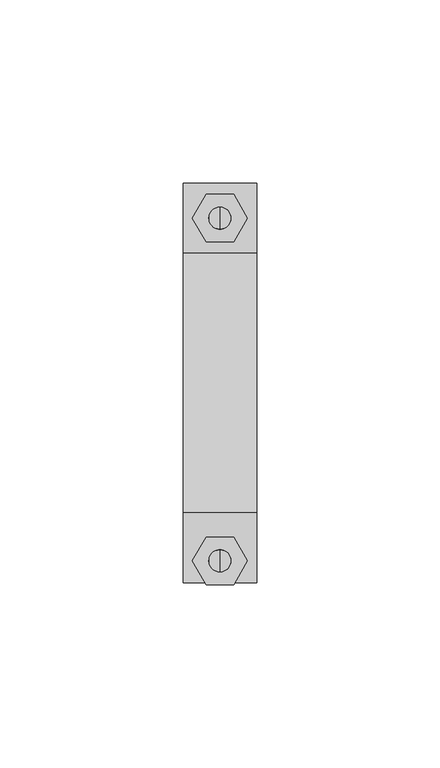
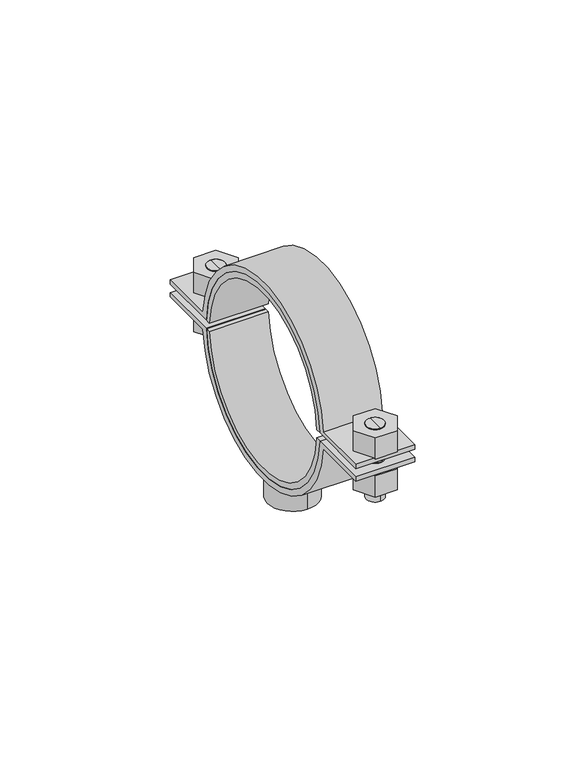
"""IFC4 building model written with IfcOpenShell, lengths in millimetres: valve geometry, Superfix DG2 Clamp Extra (based on pipe) : Superfix DG2 Clamp Extra (based on pipe)."""

from ifc_helpers import new_model, si_unit, point, frame, frame_2d, origin, origin_2d, place, context, project, spatial, polyline, circle_curve, trimmed, segment, composite_curve, outline, extrude, source, transform, mapped, element, save
from ifc_brep_helpers import plane_surface, cylinder_surface, advanced_brep


def valve_0b170f44(model_context):
    return source(origin(), model_context, "Body", "SolidModel", [
        advanced_brep(
        [(0.0, 48.0, 342.9002332), (0.0, 42.0, 342.9002332), (0.0, 42.0, 357.0002332), (0.0, 48.0, 357.0002332), (0.0, 45.0, 342.9002332)],
        [
            (0, 1, circle_curve(frame((0.0, 45.0, 342.9002332), z_axis=(0.0, 0.0, 1.0), x_axis=(0.0, 1.0, 0.0)), 3.0)),
            (1, 2),
            (2, 3, circle_curve(frame((0.0, 45.0, 357.0002332), z_axis=(0.0, 0.0, -1.0), x_axis=(0.0, 1.0, 0.0)), 3.0)),
            (3, 0),
            (1, 0, circle_curve(frame((0.0, 45.0, 342.9002332), z_axis=(0.0, 0.0, 1.0), x_axis=(0.0, 1.0, 0.0)), 3.0)),
            (3, 2, circle_curve(frame((0.0, 45.0, 357.0002332), z_axis=(0.0, 0.0, -1.0), x_axis=(0.0, 1.0, 0.0)), 3.0)),
            (0, 4),
            (4, 1),
        ],
        [
            cylinder_surface(frame((0.0, 45.0, 356.7808426), z_axis=(0.0, 0.0, 1.0), x_axis=(0.0, 1.0, 0.0)), 3.0),
            plane_surface(frame((0.0, 45.0, 342.9002332), z_axis=(0.0, 0.0, -1.0), x_axis=(0.0, 1.0, 0.0))),
            plane_surface(frame((13.75, -54.5, 357.0002332), z_axis=(0.0, 0.0, 1.0), x_axis=(-1.0, 0.0, 0.0))),
        ],
        [
            (0, [[1, 2, 3, 4]]),
            (0, [[5, -4, 6, -2]]),
            (1, [[-1, 7, 8]]),
            (1, [[-5, -8, -7]]),
            (2, [[-3, -6]]),
        ],
    ),
        advanced_brep(
        [(0.0, 42.0, 369.1002332), (0.0, 48.0, 369.1002332), (0.0, 48.0, 360.0002332), (0.0, 42.0, 360.0002332), (0.0, 45.0, 369.1002332)],
        [
            (0, 1, circle_curve(frame((0.0, 45.0, 369.1002332), z_axis=(0.0, 0.0, -1.0), x_axis=(0.0, 1.0, 0.0)), 3.0)),
            (1, 2),
            (2, 3, circle_curve(frame((0.0, 45.0, 360.0002332), z_axis=(0.0, 0.0, 1.0), x_axis=(0.0, 1.0, 0.0)), 3.0)),
            (3, 0),
            (1, 0, circle_curve(frame((0.0, 45.0, 369.1002332), z_axis=(0.0, 0.0, -1.0), x_axis=(0.0, 1.0, 0.0)), 3.0)),
            (3, 2, circle_curve(frame((0.0, 45.0, 360.0002332), z_axis=(0.0, 0.0, 1.0), x_axis=(0.0, 1.0, 0.0)), 3.0)),
            (0, 4),
            (4, 1),
        ],
        [
            cylinder_surface(frame((0.0, 45.0, 356.7808426), z_axis=(0.0, 0.0, 1.0), x_axis=(0.0, 1.0, 0.0)), 3.0),
            plane_surface(frame((0.0, 45.0, 369.1002332), z_axis=(0.0, 0.0, 1.0), x_axis=(0.0, 1.0, 0.0))),
            plane_surface(frame((13.75, 54.5, 360.0002332), z_axis=(0.0, 0.0, -1.0), x_axis=(-1.0, 0.0, 0.0))),
        ],
        [
            (0, [[1, 2, 3, 4]]),
            (0, [[5, -4, 6, -2]]),
            (1, [[-1, 7, 8]]),
            (1, [[-5, -8, -7]]),
            (2, [[-3, -6]]),
        ],
    ),
        advanced_brep(
        [(0.0, -51.5, 369.1002332), (0.0, -45.5, 369.1002332), (0.0, -45.5, 360.0002332), (0.0, -51.5, 360.0002332), (0.0, -48.5, 369.1002332)],
        [
            (0, 1, circle_curve(frame((0.0, -48.5, 369.1002332), z_axis=(0.0, 0.0, -1.0), x_axis=(0.0, -1.0, 0.0)), 3.0)),
            (1, 2),
            (2, 3, circle_curve(frame((0.0, -48.5, 360.0002332), z_axis=(0.0, 0.0, 1.0), x_axis=(0.0, -1.0, 0.0)), 3.0)),
            (3, 0),
            (1, 0, circle_curve(frame((0.0, -48.5, 369.1002332), z_axis=(0.0, 0.0, -1.0), x_axis=(0.0, -1.0, 0.0)), 3.0)),
            (3, 2, circle_curve(frame((0.0, -48.5, 360.0002332), z_axis=(0.0, 0.0, 1.0), x_axis=(0.0, -1.0, 0.0)), 3.0)),
            (0, 4),
            (4, 1),
        ],
        [
            cylinder_surface(frame((0.0, -48.5, 356.7808426), z_axis=(0.0, 0.0, -1.0), x_axis=(0.0, -1.0, 0.0)), 3.0),
            plane_surface(frame((0.0, -48.5, 369.1002332), z_axis=(0.0, 0.0, 1.0), x_axis=(0.0, -1.0, 0.0))),
            plane_surface(frame((13.75, 54.5, 360.0002332), z_axis=(0.0, 0.0, -1.0), x_axis=(-1.0, 0.0, 0.0))),
        ],
        [
            (0, [[1, 2, 3, 4]]),
            (0, [[5, -4, 6, -2]]),
            (1, [[-1, 7, 8]]),
            (1, [[-5, -8, -7]]),
            (2, [[-3, -6]]),
        ],
    ),
        advanced_brep(
        [(0.0, -45.5, 342.9002332), (0.0, -51.5, 342.9002332), (0.0, -51.5, 357.0002332), (0.0, -45.5, 357.0002332), (0.0, -48.5, 342.9002332)],
        [
            (0, 1, circle_curve(frame((0.0, -48.5, 342.9002332), z_axis=(0.0, 0.0, 1.0), x_axis=(0.0, -1.0, 0.0)), 3.0)),
            (1, 2),
            (2, 3, circle_curve(frame((0.0, -48.5, 357.0002332), z_axis=(0.0, 0.0, -1.0), x_axis=(0.0, -1.0, 0.0)), 3.0)),
            (3, 0),
            (1, 0, circle_curve(frame((0.0, -48.5, 342.9002332), z_axis=(0.0, 0.0, 1.0), x_axis=(0.0, -1.0, 0.0)), 3.0)),
            (3, 2, circle_curve(frame((0.0, -48.5, 357.0002332), z_axis=(0.0, 0.0, -1.0), x_axis=(0.0, -1.0, 0.0)), 3.0)),
            (0, 4),
            (4, 1),
        ],
        [
            cylinder_surface(frame((0.0, -48.5, 356.7808426), z_axis=(0.0, 0.0, -1.0), x_axis=(0.0, -1.0, 0.0)), 3.0),
            plane_surface(frame((0.0, -48.5, 342.9002332), z_axis=(0.0, 0.0, -1.0), x_axis=(0.0, -1.0, 0.0))),
            plane_surface(frame((13.75, -54.5, 357.0002332), z_axis=(0.0, 0.0, 1.0), x_axis=(-1.0, 0.0, 0.0))),
        ],
        [
            (0, [[1, 2, 3, 4]]),
            (0, [[5, -4, 6, -2]]),
            (1, [[-1, 7, 8]]),
            (1, [[-5, -8, -7]]),
            (2, [[-3, -6]]),
        ],
    ),
        extrude(outline(composite_curve([segment(trimmed(circle_curve(frame_2d((0.0, 358.5002332)), 33.5), [point((-33.4664011, 357.0002332))], [point((33.4664011, 357.0002332))], True, "CARTESIAN"), True, "CONTINUOUS"), segment(polyline([(33.4664011, 357.0002332), (54.5, 357.0002332), (54.5, 355.5002332), (35.3730123, 355.5002332)]), True, "CONTINUOUS"), segment(trimmed(circle_curve(frame_2d((0.0, 358.5002332)), 35.5), [point((35.3730123, 355.5002332))], [point((-35.3730123, 355.5002332))], False, "CARTESIAN"), True, "CONTINUOUS"), segment(polyline([(-35.3730123, 355.5002332), (-54.5, 355.5002332), (-54.5, 357.0002332), (-33.4664011, 357.0002332)]), True, "CONTINUOUS")], self_intersect=False)), frame((-10.0, 0.0, 0.0), z_axis=(1.0, 0.0, 0.0), x_axis=(0.0, 1.0, 0.0)), (0.0, 0.0, 1.0), 20.0),
        extrude(outline(composite_curve([segment(trimmed(circle_curve(frame_2d((0.0, 358.5002332)), 33.5), [point((33.4664011, 360.0002332))], [point((-33.4664011, 360.0002332))], True, "CARTESIAN"), True, "CONTINUOUS"), segment(polyline([(-33.4664011, 360.0002332), (-54.5, 360.0002332), (-54.5, 361.5002332), (-35.3730123, 361.5002332)]), True, "CONTINUOUS"), segment(trimmed(circle_curve(frame_2d((0.0, 358.5002332)), 35.5), [point((-35.3730123, 361.5002332))], [point((35.3730123, 361.5002332))], False, "CARTESIAN"), True, "CONTINUOUS"), segment(polyline([(35.3730123, 361.5002332), (54.5, 361.5002332), (54.5, 360.0002332), (33.4664011, 360.0002332)]), True, "CONTINUOUS")], self_intersect=False)), frame((-10.0, 0.0, 0.0), z_axis=(1.0, 0.0, 0.0), x_axis=(0.0, 1.0, 0.0)), (0.0, 0.0, 1.0), 20.0),
        extrude(outline(polyline([(7.5055535, -48.5), (3.7527767, -55.0), (-3.7527767, -55.0), (-7.5055535, -48.5), (-3.7527767, -42.0), (3.7527767, -42.0), (7.5055535, -48.5)]), holes=[composite_curve([segment(trimmed(circle_curve(frame_2d((0.0, -48.5)), 3.0), [point((3.0, -48.5))], [point((-3.0, -48.5))], True, "CARTESIAN"), True, "CONTINUOUS"), segment(trimmed(circle_curve(frame_2d((0.0, -48.5)), 3.0), [point((-3.0, -48.5))], [point((3.0, -48.5))], True, "CARTESIAN"), True, "CONTINUOUS")], self_intersect=False)]), frame((0.0, 0.0, 361.5002332), z_axis=(0.0, 0.0, 1.0), x_axis=(1.0, 0.0, 0.0)), (0.0, 0.0, 1.0), 7.6),
        extrude(outline(polyline([(7.5055535, 45.0), (3.7527767, 38.5), (-3.7527767, 38.5), (-7.5055535, 45.0), (-3.7527767, 51.5), (3.7527767, 51.5), (7.5055535, 45.0)]), holes=[composite_curve([segment(trimmed(circle_curve(frame_2d((0.0, 45.0)), 3.0), [point((3.0, 45.0))], [point((-3.0, 45.0))], True, "CARTESIAN"), True, "CONTINUOUS"), segment(trimmed(circle_curve(frame_2d((0.0, 45.0)), 3.0), [point((-3.0, 45.0))], [point((3.0, 45.0))], True, "CARTESIAN"), True, "CONTINUOUS")], self_intersect=False)]), frame((0.0, 0.0, 361.5002332), z_axis=(0.0, 0.0, 1.0), x_axis=(1.0, 0.0, 0.0)), (0.0, 0.0, 1.0), 7.6),
        extrude(outline(polyline([(7.5055535, -48.5), (3.7527767, -55.0), (-3.7527767, -55.0), (-7.5055535, -48.5), (-3.7527767, -42.0), (3.7527767, -42.0), (7.5055535, -48.5)]), holes=[composite_curve([segment(trimmed(circle_curve(frame_2d((0.0, -48.5)), 3.0), [point((3.0, -48.5))], [point((-3.0, -48.5))], True, "CARTESIAN"), True, "CONTINUOUS"), segment(trimmed(circle_curve(frame_2d((0.0, -48.5)), 3.0), [point((-3.0, -48.5))], [point((3.0, -48.5))], True, "CARTESIAN"), True, "CONTINUOUS")], self_intersect=False)]), frame((0.0, 0.0, 347.9002332), z_axis=(0.0, 0.0, 1.0), x_axis=(1.0, 0.0, 0.0)), (0.0, 0.0, 1.0), 7.6),
        extrude(outline(polyline([(7.5055535, 45.0), (3.7527767, 38.5), (-3.7527767, 38.5), (-7.5055535, 45.0), (-3.7527767, 51.5), (3.7527767, 51.5), (7.5055535, 45.0)]), holes=[composite_curve([segment(trimmed(circle_curve(frame_2d((0.0, 45.0)), 3.0), [point((3.0, 45.0))], [point((-3.0, 45.0))], True, "CARTESIAN"), True, "CONTINUOUS"), segment(trimmed(circle_curve(frame_2d((0.0, 45.0)), 3.0), [point((-3.0, 45.0))], [point((3.0, 45.0))], True, "CARTESIAN"), True, "CONTINUOUS")], self_intersect=False)]), frame((0.0, 0.0, 347.9002332), z_axis=(0.0, 0.0, 1.0), x_axis=(1.0, 0.0, 0.0)), (0.0, 0.0, 1.0), 7.6),
        extrude(outline(composite_curve([segment(trimmed(circle_curve(origin_2d(), 8.5), [point((0.0, 8.5))], [point((0.0, -8.5))], False, "CARTESIAN"), True, "CONTINUOUS"), segment(trimmed(circle_curve(origin_2d(), 8.5), [point((0.0, -8.5))], [point((0.0, 8.5))], False, "CARTESIAN"), True, "CONTINUOUS")], self_intersect=False), holes=[composite_curve([segment(trimmed(circle_curve(origin_2d(), 5.0), [point((0.0, 5.0))], [point((0.0, -5.0))], True, "CARTESIAN"), True, "CONTINUOUS"), segment(trimmed(circle_curve(origin_2d(), 5.0), [point((0.0, -5.0))], [point((0.0, 5.0))], True, "CARTESIAN"), True, "CONTINUOUS")], self_intersect=False)]), frame((0.0, 0.0, 314.0002332), z_axis=(0.0, 0.0, 1.0), x_axis=(1.0, 0.0, 0.0)), (0.0, 0.0, 1.0), 11.5),
        extrude(outline(composite_curve([segment(trimmed(circle_curve(frame_2d((0.0, 358.5002332)), 31.5), [point((31.4642654, 360.0002332))], [point((-31.4642654, 360.0002332))], True, "CARTESIAN"), True, "CONTINUOUS"), segment(polyline([(-31.4642654, 360.0002332), (-33.4664011, 360.0002332)]), True, "CONTINUOUS"), segment(trimmed(circle_curve(frame_2d((0.0, 358.5002332)), 33.5), [point((-33.4664011, 360.0002332))], [point((33.4664011, 360.0002332))], False, "CARTESIAN"), True, "CONTINUOUS"), segment(polyline([(33.4664011, 360.0002332), (31.4642654, 360.0002332)]), True, "CONTINUOUS")], self_intersect=False)), frame((-10.0, 0.0, 0.0), z_axis=(1.0, 0.0, 0.0), x_axis=(0.0, 1.0, 0.0)), (0.0, 0.0, 1.0), 20.0),
        extrude(outline(composite_curve([segment(polyline([(31.4642654, 357.0002332), (33.4664011, 357.0002332)]), True, "CONTINUOUS"), segment(trimmed(circle_curve(frame_2d((0.0, 358.5002332)), 33.5), [point((33.4664011, 357.0002332))], [point((-33.4664011, 357.0002332))], False, "CARTESIAN"), True, "CONTINUOUS"), segment(polyline([(-33.4664011, 357.0002332), (-31.4642654, 357.0002332)]), True, "CONTINUOUS"), segment(trimmed(circle_curve(frame_2d((0.0, 358.5002332)), 31.5), [point((-31.4642654, 357.0002332))], [point((31.4642654, 357.0002332))], True, "CARTESIAN"), True, "CONTINUOUS")], self_intersect=False)), frame((-10.0, 0.0, 0.0), z_axis=(1.0, 0.0, 0.0), x_axis=(0.0, 1.0, 0.0)), (0.0, 0.0, 1.0), 20.0),
    ])


if __name__ == "__main__":
    model = new_model("IFC4")
    model_context = context("Model", 3, world=origin())
    ifc_project = project(units=[si_unit("LENGTHUNIT", "METRE", prefix="MILLI")], contexts=[model_context])
    site = spatial("IfcSite", under=ifc_project)
    building = spatial("IfcBuilding", under=site)
    placement = place(None, origin())
    valve_shape = valve_0b170f44(model_context)
    element("IfcValve", 1, ObjectType="Superfix DG2 Clamp Extra (based on pipe) : Superfix DG2 Clamp Extra (based on pipe)", at=placement, inside=building, context=model_context, shape_type="MappedRepresentation", body=[
        mapped(valve_shape, transform((0.0, 0.0, 0.0), x_axis=(1.0, 0.0, 0.0), y_axis=(0.0, 1.0, 0.0), z_axis=(0.0, 0.0, 1.0))),
    ])
    save(model, "model.ifc")
